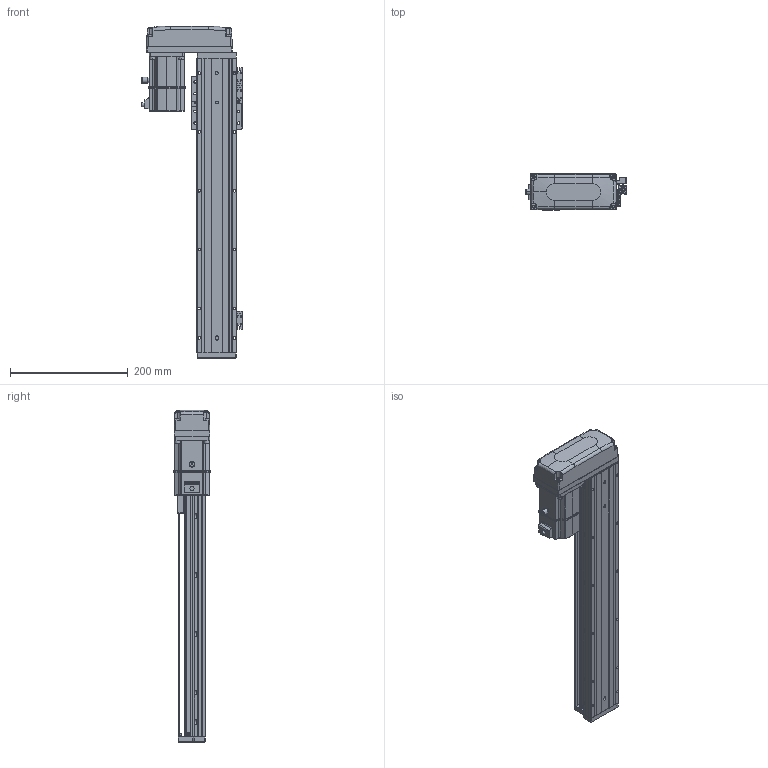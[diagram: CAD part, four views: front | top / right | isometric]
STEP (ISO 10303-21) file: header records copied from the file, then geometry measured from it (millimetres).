
FILE_DESCRIPTION (( 'STEP AP203' ), '1' );
FILE_NAME ('KTHAL60-350-BR-M20-C4L.step', '2022-12-16T02:15:07', ( '微软用户' ), ( '微软中国' ), 'SwSTEP 2.0', 'SolidWorks 2020', '' );
FILE_SCHEMA (( 'CONFIG_CONTROL_DESIGN' ));
Length unit declared in the file: millimetre
Products named in the file (17): EE_SX911P_R; _X2_4E0983F1_X0_200W_1; KTHA60-001_500; CTHA60-017; CTHA60-015-4_CTHA60-015-4; KTHLA60-002; CTHA60-021; GTH80-026; KTHA60-004; GBT 70.1-M4×16; KTHAL60-350-BR-M20-C4L; KTHA60-005; GBT77-2000M3-3; GB¨uT 70.2-M3¡Á5_M3¡Á6; GBT 70.1-M3℅6; GBT 70.3-M3℅6; CTHA60-016
Assembly tree (45 placements, depth 2):
  KTHAL60-350-BR-M20-C4L
    KTHA60-001_500
    KTHLA60-002
    KTHA60-004
    KTHA60-005
    GB¨uT 70.2-M3¡Á5_M3¡Á6  x5
    GBT 70.3-M3℅6  x4
    EE_SX911P_R  x3
    CTHA60-017  x3
    CTHA60-021  x2
    GBT 70.1-M4×16  x8
    GBT77-2000M3-3  x6
    GBT 70.1-M3℅6  x6
    CTHA60-016
    _X2_4E0983F1_X0_200W_1
    CTHA60-015-4_CTHA60-015-4
    GTH80-026
Bounding box: 173.02 x 62.42 x 564 mm (x, y, z)
Volume: 1677378.5 mm3; surface area: 350478.4 mm2
Topology: 48 solids, 48 shells, 2331 faces, 5548 edges, 3409 vertices
Faces by surface type: plane 1247, cylinder 617, cone 268, bspline 103, torus 82, sphere 14
Entity records: 45247 total; most frequent: CARTESIAN_POINT 10154, DIRECTION 6811, ORIENTED_EDGE 6720, EDGE_CURVE 3360, AXIS2_PLACEMENT_3D 2350, LINE 2111, VECTOR 2111, VERTEX_POINT 2093
